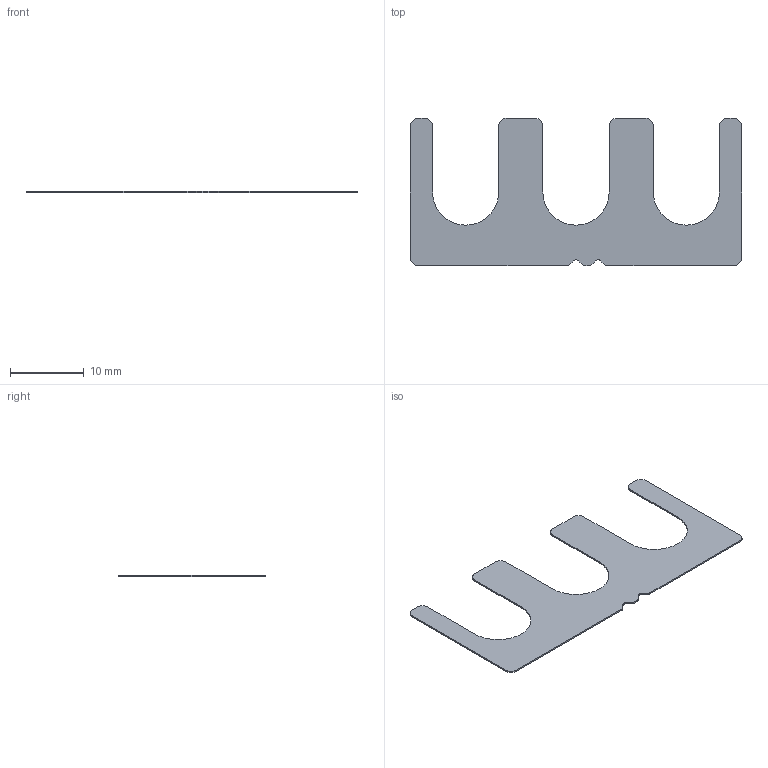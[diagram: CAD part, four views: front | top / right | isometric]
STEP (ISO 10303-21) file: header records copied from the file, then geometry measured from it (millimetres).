
FILE_DESCRIPTION (( 'STEP AP214' ), '1' );
FILE_NAME ('S-45x20-08-03-02-VA-00-00__Notum.STEP', '2018-03-29T11:20:59', ( '' ), ( '' ), 'SwSTEP 2.0', 'SolidWorks 2015', '' );
FILE_SCHEMA (( 'AUTOMOTIVE_DESIGN' ));
Length unit declared in the file: millimetre
Products named in the file (1): S-45x20-08-03-02-VA-00-00__Notum
Bounding box: 45 x 20 x 0.2 mm (x, y, z)
Volume: 106.1 mm3; surface area: 1101.5 mm2
Topology: 1 solids, 1 shells, 40 faces, 114 edges, 76 vertices
Faces by surface type: plane 21, cylinder 19
Entity records: 1350 total; most frequent: DIRECTION 234, CARTESIAN_POINT 231, ORIENTED_EDGE 228, EDGE_CURVE 114, AXIS2_PLACEMENT_3D 79, LINE 76, VERTEX_POINT 76, VECTOR 76
